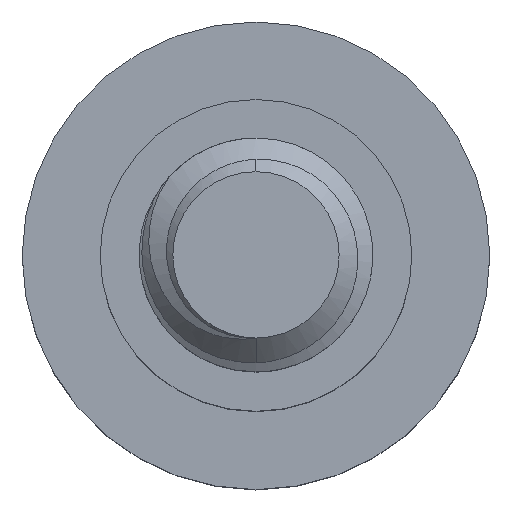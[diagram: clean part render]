
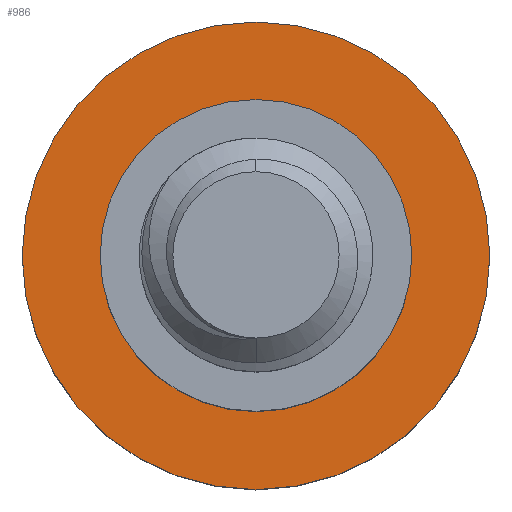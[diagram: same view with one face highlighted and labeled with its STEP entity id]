
A CAD part, top view. The second image highlights one B-rep face of the part: STEP entity #986.
In plain terms, the highlighted planar face has unit normal (0, 0, 1).
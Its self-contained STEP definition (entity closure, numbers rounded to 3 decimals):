
#50 = EDGE_CURVE ( 'NONE', #780, #1527, #2095, .T. ) ;
#102 = EDGE_CURVE ( 'NONE', #2244, #1309, #1076, .T. ) ;
#118 = AXIS2_PLACEMENT_3D ( 'NONE', #1152, #1299, #1128 ) ;
#210 = AXIS2_PLACEMENT_3D ( 'NONE', #1219, #699, #1020 ) ;
#414 = DIRECTION ( 'NONE',  ( 0., 0., -1. ) ) ;
#519 = ORIENTED_EDGE ( 'NONE', *, *, #2222, .F. ) ;
#555 = CIRCLE ( 'NONE', #118, 3. ) ;
#699 = DIRECTION ( 'NONE',  ( 0., 0., -1. ) ) ;
#723 = AXIS2_PLACEMENT_3D ( 'NONE', #2110, #414, #1765 ) ;
#780 = VERTEX_POINT ( 'NONE', #1691 ) ;
#838 = ORIENTED_EDGE ( 'NONE', *, *, #1614, .T. ) ;
#879 = DIRECTION ( 'NONE',  ( -1., 0., 0. ) ) ;
#937 = CARTESIAN_POINT ( 'NONE',  ( -3., 0., -3. ) ) ;
#986 = ADVANCED_FACE ( 'NONE', ( #1067, #2068 ), #2249, .F. ) ;
#1010 = EDGE_LOOP ( 'NONE', ( #838, #2018 ) ) ;
#1020 = DIRECTION ( 'NONE',  ( -1., 0., 0. ) ) ;
#1021 = CARTESIAN_POINT ( 'NONE',  ( 0., 0., -3. ) ) ;
#1067 = FACE_BOUND ( 'NONE', #1010, .T. ) ;
#1076 = CIRCLE ( 'NONE', #2130, 3. ) ;
#1128 = DIRECTION ( 'NONE',  ( -1., 0., 0. ) ) ;
#1152 = CARTESIAN_POINT ( 'NONE',  ( 0., 0., -3. ) ) ;
#1204 = CARTESIAN_POINT ( 'NONE',  ( 0., 0., -3. ) ) ;
#1219 = CARTESIAN_POINT ( 'NONE',  ( 0., 0., -3. ) ) ;
#1299 = DIRECTION ( 'NONE',  ( 0., 0., -1. ) ) ;
#1309 = VERTEX_POINT ( 'NONE', #1997 ) ;
#1339 = EDGE_LOOP ( 'NONE', ( #519, #2180 ) ) ;
#1347 = CIRCLE ( 'NONE', #723, 2. ) ;
#1362 = AXIS2_PLACEMENT_3D ( 'NONE', #1021, #1387, #879 ) ;
#1387 = DIRECTION ( 'NONE',  ( 0., 0., -1. ) ) ;
#1418 = CARTESIAN_POINT ( 'NONE',  ( -2., 0., -3. ) ) ;
#1527 = VERTEX_POINT ( 'NONE', #1418 ) ;
#1557 = DIRECTION ( 'NONE',  ( 0., 0., -1. ) ) ;
#1614 = EDGE_CURVE ( 'NONE', #1527, #780, #1347, .T. ) ;
#1691 = CARTESIAN_POINT ( 'NONE',  ( 2., 0., -3. ) ) ;
#1765 = DIRECTION ( 'NONE',  ( -1., 0., 0. ) ) ;
#1892 = DIRECTION ( 'NONE',  ( -1., 0., 0. ) ) ;
#1997 = CARTESIAN_POINT ( 'NONE',  ( 3., 0., -3. ) ) ;
#2018 = ORIENTED_EDGE ( 'NONE', *, *, #50, .T. ) ;
#2068 = FACE_OUTER_BOUND ( 'NONE', #1339, .T. ) ;
#2095 = CIRCLE ( 'NONE', #210, 2. ) ;
#2110 = CARTESIAN_POINT ( 'NONE',  ( 0., 0., -3. ) ) ;
#2130 = AXIS2_PLACEMENT_3D ( 'NONE', #1204, #1557, #1892 ) ;
#2180 = ORIENTED_EDGE ( 'NONE', *, *, #102, .F. ) ;
#2222 = EDGE_CURVE ( 'NONE', #1309, #2244, #555, .T. ) ;
#2244 = VERTEX_POINT ( 'NONE', #937 ) ;
#2249 = PLANE ( 'NONE',  #1362 ) ;
